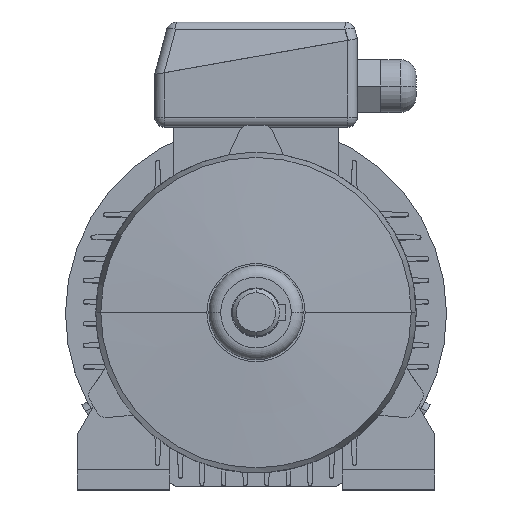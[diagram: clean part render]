
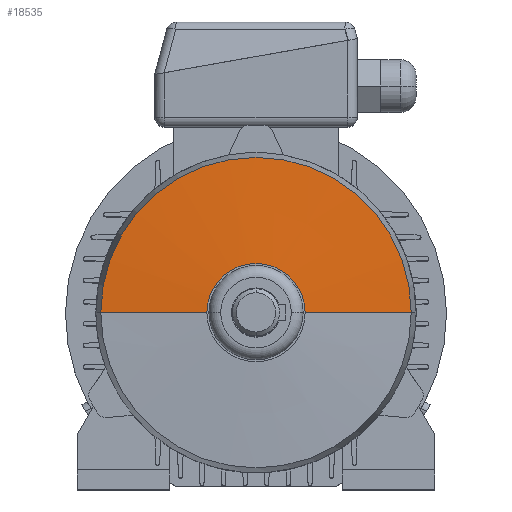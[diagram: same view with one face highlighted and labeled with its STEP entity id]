
A CAD part, top view. The second image highlights one B-rep face of the part: STEP entity #18535.
In plain terms, the highlighted conical face has half-angle 86.822 degrees and reference radius 25 mm.
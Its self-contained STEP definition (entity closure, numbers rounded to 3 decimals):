
#17008 = FACE_OUTER_BOUND ( 'NONE', #3328, .T. ) ;
#17009 = CONICAL_SURFACE ( 'NONE', #17010, 25., 1.515 ) ;
#17010 = AXIS2_PLACEMENT_3D ( 'NONE', #17011, #17018, #17019 ) ;
#17011 = CARTESIAN_POINT ( 'NONE',  ( 0., 0., 27. ) ) ;
#17018 = DIRECTION ( 'NONE',  ( 0., 0., -1. ) ) ;
#17019 = DIRECTION ( 'NONE',  ( -1., 0., 0. ) ) ;
#1070 = VERTEX_POINT ( 'NONE', #22093 ) ;
#18535 = ADVANCED_FACE ( 'NONE', ( #17008 ), #17009, .T. ) ;
#3328 = EDGE_LOOP ( 'NONE', ( #20813, #19785, #3530, #10890 ) ) ;
#3358 = CARTESIAN_POINT ( 'NONE',  ( -79.031, 0., 24. ) ) ;
#19785 = ORIENTED_EDGE ( 'NONE', *, *, #15014, .T. ) ;
#3530 = ORIENTED_EDGE ( 'NONE', *, *, #5639, .F. ) ;
#3579 = CIRCLE ( 'NONE', #3580, 79.031 ) ;
#3580 = AXIS2_PLACEMENT_3D ( 'NONE', #3581, #3586, #3587 ) ;
#3581 = CARTESIAN_POINT ( 'NONE',  ( 0., 0., 24. ) ) ;
#3586 = DIRECTION ( 'NONE',  ( 0., 0., -1. ) ) ;
#3587 = DIRECTION ( 'NONE',  ( -1., 0., 0. ) ) ;
#20813 = ORIENTED_EDGE ( 'NONE', *, *, #14966, .T. ) ;
#5370 = LINE ( 'NONE', #5371, #5372 ) ;
#5371 = CARTESIAN_POINT ( 'NONE',  ( -25., 0., 27. ) ) ;
#5372 = VECTOR ( 'NONE', #5373, 1000. ) ;
#5373 = DIRECTION ( 'NONE',  ( -0.998, 0., -0.055 ) ) ;
#5526 = VERTEX_POINT ( 'NONE', #3358 ) ;
#5639 = EDGE_CURVE ( 'NONE', #5526, #1070, #3579, .T. ) ;
#22093 = CARTESIAN_POINT ( 'NONE',  ( 79.031, 0., 24. ) ) ;
#6598 = CARTESIAN_POINT ( 'NONE',  ( 25., 0., 27. ) ) ;
#7272 = CARTESIAN_POINT ( 'NONE',  ( -25., 0., 27. ) ) ;
#7440 = EDGE_CURVE ( 'NONE', #9209, #5526, #5370, .T. ) ;
#8612 = VERTEX_POINT ( 'NONE', #6598 ) ;
#9209 = VERTEX_POINT ( 'NONE', #7272 ) ;
#10890 = ORIENTED_EDGE ( 'NONE', *, *, #7440, .F. ) ;
#13065 = CIRCLE ( 'NONE', #13066, 25. ) ;
#13066 = AXIS2_PLACEMENT_3D ( 'NONE', #13067, #13068, #13074 ) ;
#13067 = CARTESIAN_POINT ( 'NONE',  ( 0., 0., 27. ) ) ;
#13068 = DIRECTION ( 'NONE',  ( 0., 0., -1. ) ) ;
#13074 = DIRECTION ( 'NONE',  ( -1., 0., 0. ) ) ;
#13282 = LINE ( 'NONE', #13283, #13287 ) ;
#13283 = CARTESIAN_POINT ( 'NONE',  ( 25., 0., 27. ) ) ;
#13287 = VECTOR ( 'NONE', #13288, 1000. ) ;
#13288 = DIRECTION ( 'NONE',  ( 0.998, 0., -0.055 ) ) ;
#14966 = EDGE_CURVE ( 'NONE', #9209, #8612, #13065, .T. ) ;
#15014 = EDGE_CURVE ( 'NONE', #8612, #1070, #13282, .T. ) ;
